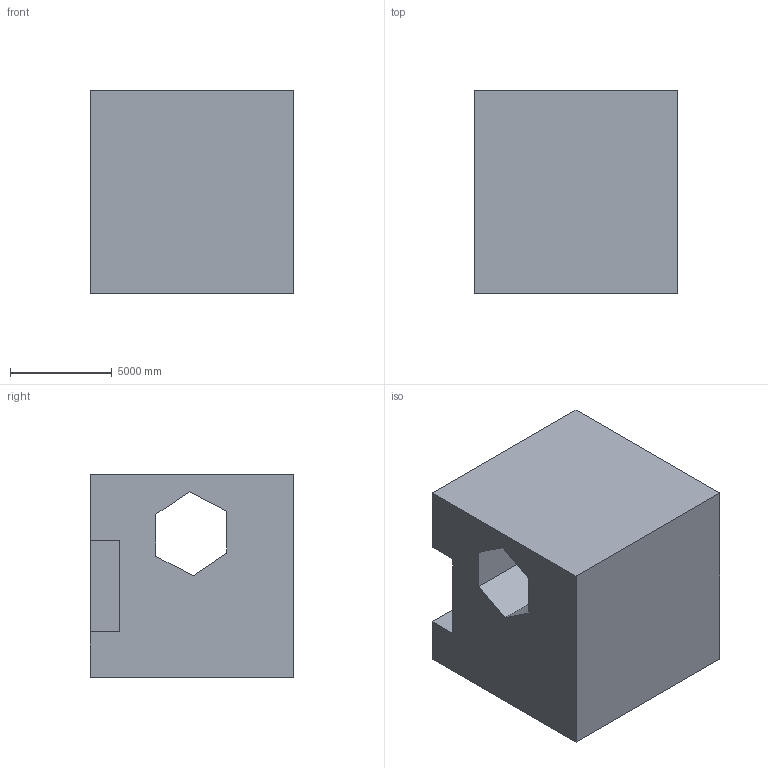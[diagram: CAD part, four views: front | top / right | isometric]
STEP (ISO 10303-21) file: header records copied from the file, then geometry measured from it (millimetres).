
FILE_DESCRIPTION (( 'STEP AP203' ), '1' );
FILE_NAME ('113.STEP', '2022-07-28T13:38:51', ( 'user' ), ( '' ), 'SwSTEP 2.0', 'SolidWorks 2021', '' );
FILE_SCHEMA (( 'CONFIG_CONTROL_DESIGN' ));
Length unit declared in the file: centimetre
Products named in the file (1): 113
Bounding box: 10000 x 10000 x 10000 mm (x, y, z)
Volume: 854585274495.9 mm3; surface area: 717451894.6 mm2
Topology: 1 solids, 1 shells, 16 faces, 42 edges, 28 vertices
Faces by surface type: plane 16
Entity records: 567 total; most frequent: CARTESIAN_POINT 87, ORIENTED_EDGE 84, DIRECTION 76, LINE 42, VECTOR 42, EDGE_CURVE 42, VERTEX_POINT 28, EDGE_LOOP 18
